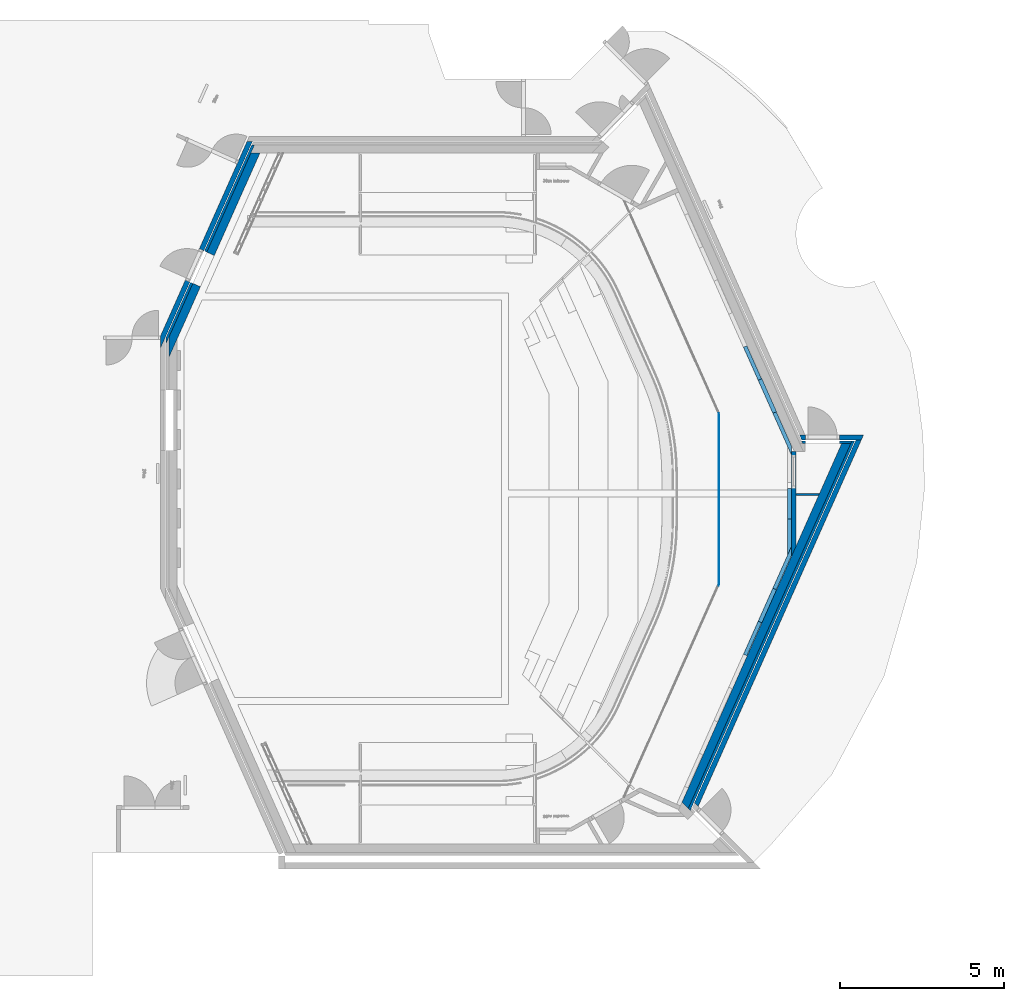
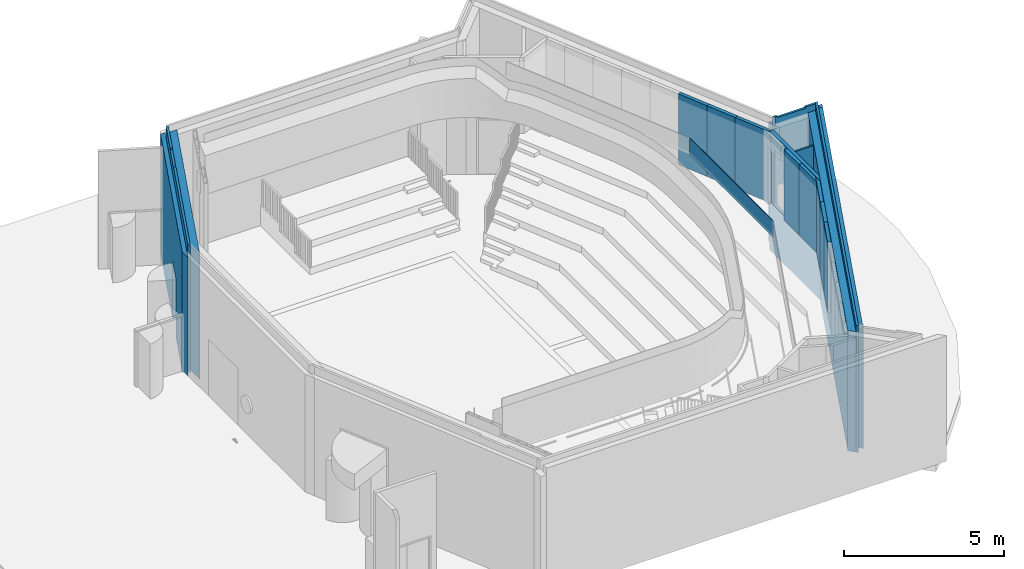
# One storey, part 9 of 19: 19 walls, 12 openings.
"""IFC2X3 building model written with IfcOpenShell, lengths in millimetres."""

from ifc_helpers import new_model, entity, si_unit, converted_unit, derived_unit, direction, frame, frame_2d, origin, origin_2d_with_axis, place, context, subcontext, project, spatial, polyline, rectangle, outline, extrude, clip, halfspace, material, layer, layer_set, layer_usage, type_object, element, save


model = new_model("IFC2X3")

# Units and contexts
model_context = context("Model", 3, precision=0.01, world=origin(), true_north=direction((6.123031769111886e-17, 1.0)))
body_context = subcontext(model_context, "Body", "Model", "MODEL_VIEW")
ifc_project = project(units=[si_unit("LENGTHUNIT", "METRE", prefix="MILLI"), si_unit("AREAUNIT", "SQUARE_METRE"), si_unit("VOLUMEUNIT", "CUBIC_METRE"), converted_unit("PLANEANGLEUNIT", "DEGREE", entity("IfcRatioMeasure", 0.017453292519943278), si_unit("PLANEANGLEUNIT", "RADIAN"), dimensions=[0, 0, 0, 0, 0, 0, 0]), si_unit("MASSUNIT", "GRAM", prefix="KILO"), derived_unit("MASSDENSITYUNIT", [(si_unit("MASSUNIT", "GRAM", prefix="KILO"), 1), (si_unit("LENGTHUNIT", "METRE"), -3)]), derived_unit("MOMENTOFINERTIAUNIT", [(si_unit("LENGTHUNIT", "METRE"), 4)]), si_unit("TIMEUNIT", "SECOND"), si_unit("FREQUENCYUNIT", "HERTZ"), si_unit("THERMODYNAMICTEMPERATUREUNIT", "DEGREE_CELSIUS"), derived_unit("THERMALTRANSMITTANCEUNIT", [(si_unit("MASSUNIT", "GRAM", prefix="KILO"), 1), (si_unit("THERMODYNAMICTEMPERATUREUNIT", "KELVIN"), -1), (si_unit("TIMEUNIT", "SECOND"), -3)]), derived_unit("VOLUMETRICFLOWRATEUNIT", [(si_unit("LENGTHUNIT", "METRE"), 3), (si_unit("TIMEUNIT", "SECOND"), -1)]), derived_unit("MASSFLOWRATEUNIT", [(si_unit("MASSUNIT", "GRAM", prefix="KILO"), 1), (si_unit("TIMEUNIT", "SECOND"), -1)]), derived_unit("ROTATIONALFREQUENCYUNIT", [(si_unit("TIMEUNIT", "SECOND"), -1)]), si_unit("ELECTRICCURRENTUNIT", "AMPERE"), si_unit("ELECTRICVOLTAGEUNIT", "VOLT"), si_unit("POWERUNIT", "WATT"), si_unit("FORCEUNIT", "NEWTON", prefix="KILO"), si_unit("ILLUMINANCEUNIT", "LUX"), si_unit("LUMINOUSFLUXUNIT", "LUMEN"), si_unit("LUMINOUSINTENSITYUNIT", "CANDELA"), derived_unit("USERDEFINED", [(si_unit("MASSUNIT", "GRAM", prefix="KILO"), -1), (si_unit("LENGTHUNIT", "METRE"), -2), (si_unit("TIMEUNIT", "SECOND"), 3), (si_unit("LUMINOUSFLUXUNIT", "LUMEN"), 1)]), derived_unit("SOUNDPOWERUNIT", [(si_unit("MASSUNIT", "GRAM", prefix="KILO"), 1), (si_unit("LENGTHUNIT", "METRE"), 2), (si_unit("TIMEUNIT", "SECOND"), -3)]), derived_unit("SOUNDPRESSUREUNIT", [(si_unit("MASSUNIT", "GRAM", prefix="KILO"), 1), (si_unit("LENGTHUNIT", "METRE"), -1), (si_unit("TIMEUNIT", "SECOND"), -2)]), derived_unit("LINEARVELOCITYUNIT", [(si_unit("LENGTHUNIT", "METRE"), 1), (si_unit("TIMEUNIT", "SECOND"), -1)]), si_unit("PRESSUREUNIT", "PASCAL"), derived_unit("USERDEFINED", [(si_unit("LENGTHUNIT", "METRE"), -2), (si_unit("MASSUNIT", "GRAM", prefix="KILO"), 1), (si_unit("TIMEUNIT", "SECOND"), -2)]), derived_unit("LINEARFORCEUNIT", [(si_unit("MASSUNIT", "GRAM", prefix="KILO"), 1), (si_unit("LENGTHUNIT", "METRE"), 1), (si_unit("TIMEUNIT", "SECOND"), -2), (si_unit("LENGTHUNIT", "METRE"), -1)]), derived_unit("PLANARFORCEUNIT", [(si_unit("MASSUNIT", "GRAM", prefix="KILO"), 1), (si_unit("LENGTHUNIT", "METRE"), 1), (si_unit("TIMEUNIT", "SECOND"), -2), (si_unit("LENGTHUNIT", "METRE"), -2)])], contexts=[model_context])

# Site, building, storey
site_placement = place(None, frame((-10000.0, -10000.0, 0.0)))
site = spatial("IfcSite", under=ifc_project, at=site_placement, Name="Default", CompositionType="ELEMENT")
building_placement = place(site_placement, origin())
building = spatial("IfcBuilding", under=site, at=building_placement, CompositionType="ELEMENT")
storey_placement = place(building_placement, frame((0.0, 0.0, 4200.0)))
storey = spatial("IfcBuildingStorey", under=building, at=storey_placement, Name="01 1e verdieping", CompositionType="ELEMENT", Elevation=4200.000000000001)

# Wall, opening
ifc_material_1 = material(Name="NLRS_beton ihwg")
ifc_layer_1 = layer(ifc_material_1, 250.00000000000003)
ifc_layer_set_1 = layer_set([ifc_layer_1], Name="Basic Wall:NLRS_21_WA_beton 250mm_ags")
ifc_layer_usage_1 = layer_usage(ifc_layer_set_1, "AXIS2", "NEGATIVE", 125.00000000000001)
wall_type_1 = type_object("IfcWallType", Name="Basic Wall:NLRS_21_WA_beton 250mm_ags", PredefinedType="STANDARD", material=ifc_layer_set_1)
wall_1_placement = place(storey_placement, frame((28183.279332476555, 49202.842080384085, -50.0), z_axis=(0.0, 0.0, 1.0), x_axis=(-0.4067366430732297, -0.9135454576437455, 0.0)))
wall_1 = element("IfcWallStandardCase", 1, at=wall_1_placement, inside=storey, type_object=wall_type_1, material=ifc_layer_usage_1, Name="Basic Wall:NLRS_21_WA_beton 250mm_ags", ObjectType="Basic Wall:NLRS_21_WA_beton 250mm_ags", context=body_context, shape_type="SweptSolid", body=[
    extrude(outline(polyline([(111.30717132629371, -125.0), (6254.8732549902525, -125.0), (6816.382448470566, 125.0), (6201.734114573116, 125.0), (0.0, 125.0), (111.30717132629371, -125.0)])), origin(), (0.0, 0.0, 1.0), 4799.999999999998),
])
opening_1_placement = place(wall_1_placement, origin())
element("IfcOpeningElement", 2, at=opening_1_placement, cuts=wall_1, Name="Basic Wall:NLRS_21_WA_beton 250mm_ags", ObjectType="Opening", context=body_context, shape_type="SweptSolid", body=[
    extrude(rectangle(XDim=2220.0, YDim=1040.0000000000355, at=frame_2d((0.0, 3.979039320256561e-12), x_axis=(1.0, 0.0))), frame((3931.7341145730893, -125.0, 1110.0), z_axis=(0.0, 1.0, 0.0), x_axis=(0.0, 0.0, -1.0)), (0.0, 0.0, 1.0), 249.99999999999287),
])

# Wall
ifc_layer_usage_2 = layer_usage(ifc_layer_set_1, "AXIS2", "NEGATIVE", 125.00000000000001)
wall_2_placement = place(storey_placement, frame((46159.346673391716, 40368.82110837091, -50.0), z_axis=(0.0, 0.0, 1.0), x_axis=(-0.40673664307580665, -0.9135454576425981, 0.0)))
element("IfcWallStandardCase", 3, at=wall_2_placement, inside=storey, type_object=wall_type_1, material=ifc_layer_usage_2, Name="Basic Wall:NLRS_21_WA_beton 250mm_ags", ObjectType="Basic Wall:NLRS_21_WA_beton 250mm_ags", context=body_context, shape_type="SweptSolid", body=[
    extrude(outline(polyline([(12057.846742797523, -125.0), (12153.812751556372, 125.0), (0.0, 125.0), (111.30717132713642, -125.0), (12057.846742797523, -125.0)])), origin(), (0.0, 0.0, 1.0), 4599.999999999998),
])

# Wall, opening
ifc_material_2 = material(Name="NLRS_kalkzandsteen")
ifc_layer_2 = layer(ifc_material_2, 150.0)
ifc_layer_set_2 = layer_set([ifc_layer_2], Name="Basic Wall:NLRS_22_WA_kalkzandsteen 150mm_ags")
ifc_layer_usage_3 = layer_usage(ifc_layer_set_2, "AXIS2", "NEGATIVE", 75.0)
wall_type_2 = type_object("IfcWallType", Name="Basic Wall:NLRS_22_WA_kalkzandsteen 150mm_ags", PredefinedType="STANDARD", material=ifc_layer_set_2)
wall_3_placement = place(storey_placement, frame((28001.66394773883, 49532.50524823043, -50.0), z_axis=(0.0, 0.0, 1.0), x_axis=(-0.40673664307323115, -0.9135454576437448, 0.0)))
wall_3 = element("IfcWallStandardCase", 4, at=wall_3_placement, inside=storey, type_object=wall_type_2, material=ifc_layer_usage_3, Name="Basic Wall:NLRS_22_WA_kalkzandsteen 150mm_ags", ObjectType="Basic Wall:NLRS_22_WA_kalkzandsteen 150mm_ags", context=body_context, shape_type="SweptSolid", body=[
    extrude(outline(polyline([(66.78430279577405, -75.0), (706.5938826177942, -75.0), (806.5938826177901, -75.0), (6535.3050530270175, -75.0), (6872.210569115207, 75.0), (6503.421568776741, 75.0), (0.0, 75.0), (66.78430279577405, -75.0)])), origin(), (0.0, 0.0, 1.0), 4549.999999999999),
])
opening_2_placement = place(wall_3_placement, origin())
element("IfcOpeningElement", 5, at=opening_2_placement, cuts=wall_3, Name="Basic Wall:NLRS_22_WA_kalkzandsteen 150mm_ags", ObjectType="Opening", context=body_context, shape_type="SweptSolid", body=[
    extrude(rectangle(XDim=2220.0, YDim=1039.9999999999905, at=frame_2d((0.0, -9.094947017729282e-13), x_axis=(1.0, 0.0))), frame((4159.026772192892, -75.0, 1110.0), z_axis=(0.0, 1.0, 0.0), x_axis=(0.0, 0.0, -1.0)), (0.0, 0.0, 1.0), 150.0000000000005),
])

# Wall, openings
ifc_layer_usage_4 = layer_usage(ifc_layer_set_2, "AXIS2", "NEGATIVE", 75.0)
wall_4_placement = place(storey_placement, frame((44718.49569253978, 40492.97902798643, -50.0)))
wall_4 = element("IfcWallStandardCase", 6, at=wall_4_placement, inside=storey, type_object=wall_type_2, material=ifc_layer_usage_4, Name="Basic Wall:NLRS_22_WA_kalkzandsteen 150mm_ags", ObjectType="Basic Wall:NLRS_22_WA_kalkzandsteen 150mm_ags", context=body_context, shape_type="SweptSolid", body=[
    extrude(outline(polyline([(66.78430279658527, -75.0), (1709.045469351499, -75.0), (1873.2323481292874, -75.0), (1939.9955952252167, 75.0), (164.1954417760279, 75.0), (0.0, 75.0), (66.78430279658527, -75.0)])), origin(), (0.0, 0.0, 1.0), 4549.999999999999),
])
opening_3_placement = place(wall_4_placement, origin())
element("IfcOpeningElement", 7, at=opening_3_placement, cuts=wall_4, Name="Basic Wall:NLRS_22_WA_kalkzandsteen 150mm_ags", ObjectType="Opening", context=body_context, shape_type="SweptSolid", body=[
    extrude(rectangle(XDim=2220.0, YDim=1019.9999999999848, at=frame_2d((0.0, 4.348521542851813e-12), x_axis=(1.0, 0.0))), frame((695.0779221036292, -75.0, 1110.0), z_axis=(0.0, 1.0, 0.0), x_axis=(0.0, 0.0, -1.0)), (0.0, 0.0, 1.0), 150.00000000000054),
])
opening_4_placement = place(wall_4_placement, origin())
element("IfcOpeningElement", 8, at=opening_4_placement, cuts=wall_4, Name="Basic Wall:NLRS_22_WA_kalkzandsteen 150mm_ags", ObjectType="Opening", context=body_context, shape_type="SweptSolid", body=[
    extrude(rectangle(XDim=2220.0, YDim=1019.9999999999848, at=frame_2d((-1.1368683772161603e-12, 4.348521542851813e-12), x_axis=(1.0, 0.0))), frame((695.0779221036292, -75.0, 5910.0), z_axis=(0.0, 1.0, 0.0), x_axis=(0.0, 0.0, -1.0)), (0.0, 0.0, 1.0), 150.00000000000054),
])
opening_5_placement = place(wall_4_placement, origin())
element("IfcOpeningElement", 9, at=opening_5_placement, cuts=wall_4, Name="Basic Wall:NLRS_22_WA_kalkzandsteen 150mm_ags", ObjectType="Opening", context=body_context, shape_type="SweptSolid", body=[
    extrude(rectangle(XDim=2170.0, YDim=1019.9999999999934, at=frame_2d((2.2737367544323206e-13, 0.0), x_axis=(1.0, 0.0))), frame((695.0779221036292, -227.4000000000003, 1135.0), z_axis=(0.0, 1.0, 0.0), x_axis=(0.0, 0.0, 1.0)), (0.0, 0.0, 1.0), 454.8000000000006),
])

# Wall
ifc_layer_usage_5 = layer_usage(ifc_layer_set_2, "AXIS2", "NEGATIVE", 75.0)
wall_5_placement = place(storey_placement, frame((46523.20855796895, 40448.476249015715, -50.0), z_axis=(0.0, 0.0, 1.0), x_axis=(-0.40662961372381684, -0.9135931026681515, 0.0)))
element("IfcWallStandardCase", 10, at=wall_5_placement, inside=storey, type_object=wall_type_2, material=ifc_layer_usage_5, Name="Basic Wall:NLRS_22_WA_kalkzandsteen 150mm_ags", ObjectType="Basic Wall:NLRS_22_WA_kalkzandsteen 150mm_ags", context=body_context, shape_type="SweptSolid", body=[
    extrude(outline(polyline([(12145.717160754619, -75.0), (12203.316929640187, 75.0), (0.0, 75.0), (66.76324709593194, -75.0), (12145.717160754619, -75.0)])), origin(), (0.0, 0.0, 1.0), 4549.999999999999),
])

# Wall, openings
ifc_material_3 = material(Name="NLRS_isolatie")
ifc_layer_3 = layer(ifc_material_3, 80.0)
ifc_layer_set_3 = layer_set([ifc_layer_3], Name="Basic Wall:NLRS_21_WA_isolatie 80mm_ags")
ifc_layer_usage_6 = layer_usage(ifc_layer_set_3, "AXIS2", "NEGATIVE", 40.0)
wall_type_3 = type_object("IfcWallType", Name="Basic Wall:NLRS_21_WA_isolatie 80mm_ags", PredefinedType="STANDARD", material=ifc_layer_set_3)
wall_6_placement = place(storey_placement, frame((25408.45818138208, 43376.159634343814, -50.0), z_axis=(0.0, 0.0, 1.0), x_axis=(0.4067366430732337, 0.9135454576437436, 0.0)))
wall_6 = element("IfcWallStandardCase", 11, at=wall_6_placement, inside=storey, type_object=wall_type_3, material=ifc_layer_usage_6, Name="Basic Wall:NLRS_21_WA_isolatie 80mm_ags", ObjectType="Basic Wall:NLRS_21_WA_isolatie 80mm_ags", context=body_context, shape_type="Clipping", body=[
    clip(extrude(outline(polyline([(0.0, -40.0), (196.68746684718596, -40.0), (6613.912620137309, -40.0), (6578.294325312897, 40.0), (179.68294191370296, 40.0), (0.0, -40.0)])), origin(), (0.0, 0.0, 1.0), 4850.0), halfspace(frame((0.0, 0.0, -50.0)), True)),
])
opening_6_placement = place(wall_6_placement, origin())
element("IfcOpeningElement", 12, at=opening_6_placement, cuts=wall_6, Name="Basic Wall:NLRS_21_WA_isolatie 80mm_ags", ObjectType="Opening", context=body_context, shape_type="SweptSolid", body=[
    extrude(rectangle(XDim=2220.0, YDim=1040.0000000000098, at=frame_2d((0.0, -9.094947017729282e-13), x_axis=(1.0, 0.0))), frame((2519.8266072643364, -40.0, 1110.0), z_axis=(0.0, 1.0, 0.0), x_axis=(0.0, 0.0, -1.0)), (0.0, 0.0, 1.0), 80.00000000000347),
])
opening_7_placement = place(wall_6_placement, origin())
element("IfcOpeningElement", 13, at=opening_7_placement, cuts=wall_6, Name="Basic Wall:NLRS_21_WA_isolatie 80mm_ags", ObjectType="Opening", context=body_context, shape_type="SweptSolid", body=[
    extrude(rectangle(XDim=2220.0, YDim=1030.0000000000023, at=frame_2d((-1.1368683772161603e-12, 9.094947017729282e-13), x_axis=(1.0, 0.0))), frame((4883.560721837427, -40.0, 5910.0), z_axis=(0.0, 1.0, 0.0), x_axis=(0.0, 0.0, -1.0)), (0.0, 0.0, 1.0), 79.99999999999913),
])

# Wall
ifc_layer_usage_7 = layer_usage(ifc_layer_set_3, "AXIS2", "NEGATIVE", 40.0)
wall_7_placement = place(storey_placement, frame((41354.19014924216, 29170.59495039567, -50.0), z_axis=(0.0, 0.0, 1.0), x_axis=(0.4067366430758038, 0.9135454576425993, 0.0)))
element("IfcWallStandardCase", 14, at=wall_7_placement, inside=storey, type_object=wall_type_3, material=ifc_layer_usage_7, Name="Basic Wall:NLRS_21_WA_isolatie 80mm_ags", ObjectType="Basic Wall:NLRS_21_WA_isolatie 80mm_ags", context=body_context, shape_type="Clipping", body=[
    clip(extrude(outline(polyline([(12307.711071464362, -40.0), (12272.092776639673, 40.0), (12184.521874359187, 40.0), (30.709122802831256, 40.0), (0.0, -40.0), (85.69159949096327, -40.0), (12307.711071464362, -40.0)])), origin(), (0.0, 0.0, 1.0), 4850.0), halfspace(frame((0.0, 0.0, -50.0)), True)),
])

# Wall, openings
ifc_layer_usage_8 = layer_usage(ifc_layer_set_3, "AXIS2", "NEGATIVE", 40.0)
wall_8_placement = place(storey_placement, frame((44772.29184347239, 40357.97902798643, -50.0)))
wall_8 = element("IfcWallStandardCase", 15, at=wall_8_placement, inside=storey, type_object=wall_type_3, material=ifc_layer_usage_8, Name="Basic Wall:NLRS_21_WA_isolatie 80mm_ags", ObjectType="Basic Wall:NLRS_21_WA_isolatie 80mm_ags", context=body_context, shape_type="Clipping", body=[
    clip(extrude(outline(polyline([(35.61829482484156, -40.0), (1501.2480121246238, -40.0), (1536.8663069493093, 40.0), (0.0, 40.0), (35.61829482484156, -40.0)])), origin(), (0.0, 0.0, 1.0), 4850.0), halfspace(frame((0.0, 0.0, -50.0)), True)),
])
opening_8_placement = place(wall_8_placement, origin())
element("IfcOpeningElement", 16, at=opening_8_placement, cuts=wall_8, Name="Basic Wall:NLRS_21_WA_isolatie 80mm_ags", ObjectType="Opening", context=body_context, shape_type="SweptSolid", body=[
    extrude(rectangle(XDim=2220.0, YDim=1019.9999999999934, at=origin_2d_with_axis()), frame((641.2817711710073, -40.0, 1110.0), z_axis=(0.0, 1.0, 0.0), x_axis=(0.0, 0.0, -1.0)), (0.0, 0.0, 1.0), 79.99999999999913),
])
opening_9_placement = place(wall_8_placement, origin())
element("IfcOpeningElement", 17, at=opening_9_placement, cuts=wall_8, Name="Basic Wall:NLRS_21_WA_isolatie 80mm_ags", ObjectType="Opening", context=body_context, shape_type="SweptSolid", body=[
    extrude(rectangle(XDim=2220.0, YDim=1019.9999999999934, at=frame_2d((-1.1368683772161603e-12, 0.0), x_axis=(1.0, 0.0))), frame((641.2817711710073, -40.0, 5910.0), z_axis=(0.0, 1.0, 0.0), x_axis=(0.0, 0.0, -1.0)), (0.0, 0.0, 1.0), 79.99999999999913),
])

# Wall, opening
ifc_material_4 = material(Name="NLRS_MDF")
ifc_layer_4 = layer(ifc_material_4, 12.5)
ifc_material_5 = material(Name="NLRS_gipsplaat")
ifc_layer_5 = layer(ifc_material_5, 12.5)
ifc_material_6 = material(Name="NLRS_aluminium C-profielen met isolatie")
ifc_layer_6 = layer(ifc_material_6, 100.0)
ifc_layer_set_4 = layer_set([ifc_layer_4, ifc_layer_5, ifc_layer_6], Name="Basic Wall:NLRS_22_WA_ms-wand mdf gips iso 125mm 25-100_ags")
ifc_layer_usage_9 = layer_usage(ifc_layer_set_4, "AXIS2", "POSITIVE", -62.50000000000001)
wall_type_4 = type_object("IfcWallType", Name="Basic Wall:NLRS_22_WA_ms-wand mdf gips iso 125mm 25-100_ags", PredefinedType="STANDARD", material=ifc_layer_set_4)
wall_9_placement = place(storey_placement, frame((44412.49999999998, 39127.80207005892, 1845.0), z_axis=(0.0, 0.0, 1.0), x_axis=(0.0, -1.0, 0.0)))
wall_9 = element("IfcWallStandardCase", 18, at=wall_9_placement, inside=storey, type_object=wall_type_4, material=ifc_layer_usage_9, Name="Basic Wall:NLRS_22_WA_ms-wand mdf gips iso 125mm 25-100_ags", ObjectType="Basic Wall:NLRS_22_WA_ms-wand mdf gips iso 125mm 25-100_ags", context=body_context, shape_type="SweptSolid", body=[
    extrude(rectangle(XDim=124.99999999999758, YDim=928.3687509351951, at=frame_2d((644.007417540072, 4.330757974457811e-12), x_axis=(0.0, -1.0))), origin(), (0.0, 0.0, 1.0), 2704.999999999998),
])
opening_10_placement = place(wall_9_placement, origin())
element("IfcOpeningElement", 19, at=opening_10_placement, cuts=wall_9, Name="Basic Wall:NLRS_22_WA_ms-wand mdf gips iso 125mm 25-100_ags", ObjectType="Opening", context=body_context, shape_type="SweptSolid", body=[
    extrude(rectangle(XDim=2170.0000000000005, YDim=1019.9999999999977, at=frame_2d((-2.1600499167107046e-12, 0.0), x_axis=(0.0, 1.0))), frame((-330.17695792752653, -214.89999999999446, 1085.0), z_axis=(0.0, 1.0, 0.0), x_axis=(-1.0, 0.0, 0.0)), (0.0, 0.0, 1.0), 429.79999999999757),
])

# Walls
ifc_layer_usage_10 = layer_usage(ifc_layer_set_4, "AXIS2", "POSITIVE", -62.50000000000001)
wall_10_placement = place(storey_placement, frame((43512.27597633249, 42263.02311706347, 1845.0), z_axis=(0.0, 0.0, 1.0), x_axis=(0.40673664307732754, -0.913545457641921, 0.0)))
element("IfcWallStandardCase", 20, at=wall_10_placement, inside=storey, type_object=wall_type_4, material=ifc_layer_usage_10, Name="Basic Wall:NLRS_22_WA_ms-wand mdf gips iso 125mm 25-100_ags", ObjectType="Basic Wall:NLRS_22_WA_ms-wand mdf gips iso 125mm 25-100_ags", context=body_context, shape_type="SweptSolid", body=[
    extrude(rectangle(XDim=1099.9999999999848, YDim=124.99999999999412, at=frame_2d((549.9999999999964, -1.822542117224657e-12), x_axis=(-1.0, 0.0))), origin(), (0.0, 0.0, 1.0), 2704.999999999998),
])
ifc_layer_usage_11 = layer_usage(ifc_layer_set_4, "AXIS2", "NEGATIVE", 62.50000000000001)
wall_11_placement = place(storey_placement, frame((43512.275976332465, 34884.38923004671, 1845.0), z_axis=(0.0, 0.0, 1.0), x_axis=(0.4067366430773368, 0.9135454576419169, 0.0)))
element("IfcWallStandardCase", 21, at=wall_11_placement, inside=storey, type_object=wall_type_4, material=ifc_layer_usage_11, Name="Basic Wall:NLRS_22_WA_ms-wand mdf gips iso 125mm 25-100_ags", ObjectType="Basic Wall:NLRS_22_WA_ms-wand mdf gips iso 125mm 25-100_ags", context=body_context, shape_type="SweptSolid", body=[
    extrude(rectangle(XDim=1099.9999999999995, YDim=124.99999999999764, at=frame_2d((549.9999999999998, -5.400124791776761e-13), x_axis=(-1.0, 0.0))), origin(), (0.0, 0.0, 1.0), 2704.999999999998),
])

# Wall, opening
ifc_layer_7 = layer(ifc_material_5, 12.5)
ifc_layer_8 = layer(ifc_material_5, 12.5)
ifc_layer_9 = layer(ifc_material_6, 75.0)
ifc_layer_10 = layer(ifc_material_5, 12.5)
ifc_layer_11 = layer(ifc_material_5, 12.5)
ifc_layer_set_5 = layer_set([ifc_layer_7, ifc_layer_8, ifc_layer_9, ifc_layer_10, ifc_layer_11], Name="Basic Wall:NLRS_22_WA_ms-wand gips iso gips 125mm 25-75-25_ags")
ifc_layer_usage_12 = layer_usage(ifc_layer_set_5, "AXIS2", "NEGATIVE", 62.50000000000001)
wall_type_5 = type_object("IfcWallType", Name="Basic Wall:NLRS_22_WA_ms-wand gips iso gips 125mm 25-75-25_ags", PredefinedType="STANDARD", material=ifc_layer_set_5)
wall_12_placement = place(storey_placement, frame((44537.49999999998, 40067.97902798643, 0.0), z_axis=(0.0, 0.0, 1.0), x_axis=(0.0, -1.0, 0.0)))
wall_12 = element("IfcWallStandardCase", 22, at=wall_12_placement, inside=storey, type_object=wall_type_5, material=ifc_layer_usage_12, Name="Basic Wall:NLRS_22_WA_ms-wand gips iso gips 125mm 25-75-25_ags", ObjectType="Basic Wall:NLRS_22_WA_ms-wand gips iso gips 125mm 25-75-25_ags", context=body_context, shape_type="SweptSolid", body=[
    extrude(outline(polyline([(3174.9383211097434, -62.49999999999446), (2894.1837243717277, 62.50000000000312), (0.0, 62.50000000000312), (0.0, -62.49999999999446), (3174.9383211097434, -62.49999999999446)])), origin(), (0.0, 0.0, 1.0), 4549.999999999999),
])
opening_11_placement = place(wall_12_placement, origin())
element("IfcOpeningElement", 23, at=opening_11_placement, cuts=wall_12, Name="Basic Wall:NLRS_22_WA_ms-wand gips iso gips 125mm 25-75-25_ags", ObjectType="Opening", context=body_context, shape_type="SweptSolid", body=[
    extrude(rectangle(XDim=2170.0000000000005, YDim=1019.9999999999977, at=frame_2d((-2.1600499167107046e-12, 0.0), x_axis=(0.0, 1.0))), frame((610.0, -214.89999999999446, 2930.0), z_axis=(0.0, 1.0, 0.0), x_axis=(-1.0, 0.0, 0.0)), (0.0, 0.0, 1.0), 429.79999999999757),
])

# Wall
ifc_material_7 = material(Name="NLRS_multiplex")
ifc_layer_12 = layer(ifc_material_7, 18.0)
ifc_material_8 = material(Name="NLRS_houten regelwerk")
ifc_layer_13 = layer(ifc_material_8, 50.0)
ifc_layer_set_6 = layer_set([ifc_layer_12, ifc_layer_13], Name="Basic Wall:NLRS_41_WA_multiplex op regelwerk 65mm 15-50mm")
ifc_layer_usage_13 = layer_usage(ifc_layer_set_6, "AXIS2", "NEGATIVE", 34.0)
wall_type_6 = type_object("IfcWallType", Name="Basic Wall:NLRS_41_WA_multiplex op regelwerk 65mm 15-50mm", PredefinedType="STANDARD", material=ifc_layer_set_6)
wall_13_placement = place(storey_placement, frame((44600.0, 38766.0, 0.0)))
element("IfcWallStandardCase", 24, at=wall_13_placement, inside=storey, type_object=wall_type_6, material=ifc_layer_usage_13, Name="Basic Wall:NLRS_41_WA_multiplex op regelwerk 65mm 15-50mm", ObjectType="Basic Wall:NLRS_41_WA_multiplex op regelwerk 65mm 15-50mm", context=body_context, shape_type="SweptSolid", body=[
    extrude(outline(polyline([(693.7574284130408, -34.0), (724.0329790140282, 34.0), (0.0, 34.0), (0.0, -34.0), (693.7574284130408, -34.0)])), origin(), (0.0, 0.0, 1.0), 4499.999999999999),
])

# Wall, opening
ifc_material_9 = material(Name="NLRS_hout")
ifc_layer_14 = layer(ifc_material_9, 39.0)
ifc_material_10 = material(Name="NLRS_vilt")
ifc_layer_15 = layer(ifc_material_10, 1.0)
ifc_layer_16 = layer(ifc_material_6, 75.0)
ifc_layer_set_7 = layer_set([ifc_layer_14, ifc_layer_15, ifc_layer_16], Name="Basic Wall:NLRS_22_WA_akoestische voorzetwand 115mm 39-1-75_ags")
ifc_layer_usage_14 = layer_usage(ifc_layer_set_7, "AXIS2", "POSITIVE", -57.50000000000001)
wall_type_7 = type_object("IfcWallType", Name="Basic Wall:NLRS_22_WA_akoestische voorzetwand 115mm 39-1-75_ags", PredefinedType="STANDARD", material=ifc_layer_set_7)
wall_14_placement = place(storey_placement, frame((44407.49999999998, 38019.47382601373, 1845.0), z_axis=(0.0, 0.0, 1.0), x_axis=(0.0, -1.0, 0.0)))
wall_14 = element("IfcWallStandardCase", 25, at=wall_14_placement, inside=storey, type_object=wall_type_7, material=ifc_layer_usage_14, Name="Basic Wall:NLRS_22_WA_akoestische voorzetwand 115mm 39-1-75_ags", ObjectType="Basic Wall:NLRS_22_WA_akoestische voorzetwand 115mm 39-1-75_ags", context=body_context, shape_type="SweptSolid", body=[
    extrude(outline(polyline([(1099.8635489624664, -57.499999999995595), (841.569319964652, 57.500000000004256), (0.0, 57.500000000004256), (0.0, -57.499999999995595), (1099.8635489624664, -57.499999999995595)])), origin(), (0.0, 0.0, 1.0), 2704.999999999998),
])
opening_12_placement = place(wall_14_placement, origin())
element("IfcOpeningElement", 26, at=opening_12_placement, cuts=wall_14, Name="Basic Wall:NLRS_22_WA_akoestische voorzetwand 115mm 39-1-75_ags", ObjectType="Opening", context=body_context, shape_type="SweptSolid", body=[
    extrude(rectangle(XDim=2170.0000000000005, YDim=1019.9999999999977, at=frame_2d((-2.1600499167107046e-12, 0.0), x_axis=(0.0, 1.0))), frame((-1438.5052019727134, -209.8999999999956, 1085.0), z_axis=(0.0, 1.0, 0.0), x_axis=(-1.0, 0.0, 0.0)), (0.0, 0.0, 1.0), 419.79999999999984),
])

# Walls
ifc_layer_usage_15 = layer_usage(ifc_layer_set_7, "AXIS2", "POSITIVE", -57.50000000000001)
wall_15_placement = place(storey_placement, frame((43955.11855642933, 41256.08943044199, 1845.0), z_axis=(0.0, 0.0, 1.0), x_axis=(0.40673664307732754, -0.913545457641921, 0.0)))
element("IfcWallStandardCase", 27, at=wall_15_placement, inside=storey, type_object=wall_type_7, material=ifc_layer_usage_15, Name="Basic Wall:NLRS_22_WA_akoestische voorzetwand 115mm 39-1-75_ags", ObjectType="Basic Wall:NLRS_22_WA_akoestische voorzetwand 115mm 39-1-75_ags", context=body_context, shape_type="SweptSolid", body=[
    extrude(outline(polyline([(1382.7382335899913, -57.49999999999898), (1124.4440045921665, 57.500000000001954), (0.0, 57.50000000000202), (0.0, -57.49999999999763), (1100.0, -57.499999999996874), (1382.7382335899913, -57.49999999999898)])), origin(), (0.0, 0.0, 1.0), 2704.999999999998),
])
ifc_layer_usage_16 = layer_usage(ifc_layer_set_7, "AXIS2", "POSITIVE", -57.50000000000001)
wall_16_placement = place(storey_placement, frame((43060.29794165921, 43265.889437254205, 1845.0), z_axis=(0.0, 0.0, 1.0), x_axis=(0.40673664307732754, -0.913545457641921, 0.0)))
element("IfcWallStandardCase", 28, at=wall_16_placement, inside=storey, type_object=wall_type_7, material=ifc_layer_usage_16, Name="Basic Wall:NLRS_22_WA_akoestische voorzetwand 115mm 39-1-75_ags", ObjectType="Basic Wall:NLRS_22_WA_akoestische voorzetwand 115mm 39-1-75_ags", context=body_context, shape_type="SweptSolid", body=[
    extrude(rectangle(XDim=1099.9999999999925, YDim=115.00000000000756, at=frame_2d((550.000000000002, 3.694822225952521e-13), x_axis=(-1.0, 0.0))), origin(), (0.0, 0.0, 1.0), 2704.999999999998),
])
ifc_layer_usage_17 = layer_usage(ifc_layer_set_7, "AXIS2", "NEGATIVE", 57.50000000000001)
wall_17_placement = place(storey_placement, frame((43060.297941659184, 33881.52290985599, 1845.0), z_axis=(0.0, 0.0, 1.0), x_axis=(0.4067366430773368, 0.9135454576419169, 0.0)))
element("IfcWallStandardCase", 29, at=wall_17_placement, inside=storey, type_object=wall_type_7, material=ifc_layer_usage_17, Name="Basic Wall:NLRS_22_WA_akoestische voorzetwand 115mm 39-1-75_ags", ObjectType="Basic Wall:NLRS_22_WA_akoestische voorzetwand 115mm 39-1-75_ags", context=body_context, shape_type="SweptSolid", body=[
    extrude(rectangle(XDim=1099.9999999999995, YDim=114.99999999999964, at=frame_2d((550.0, 4.330757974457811e-12), x_axis=(-1.0, 0.0))), origin(), (0.0, 0.0, 1.0), 2704.999999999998),
])
ifc_layer_usage_18 = layer_usage(ifc_layer_set_7, "AXIS2", "NEGATIVE", 57.50000000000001)
wall_18_placement = place(storey_placement, frame((43955.11855642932, 35891.3229166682, 1845.0), z_axis=(0.0, 0.0, 1.0), x_axis=(0.4067366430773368, 0.9135454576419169, 0.0)))
element("IfcWallStandardCase", 30, at=wall_18_placement, inside=storey, type_object=wall_type_7, material=ifc_layer_usage_18, Name="Basic Wall:NLRS_22_WA_akoestische voorzetwand 115mm 39-1-75_ags", ObjectType="Basic Wall:NLRS_22_WA_akoestische voorzetwand 115mm 39-1-75_ags", context=body_context, shape_type="SweptSolid", body=[
    extrude(outline(polyline([(1124.4440045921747, -57.49999999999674), (1382.7382335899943, 57.500000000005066), (1100.0, 57.50000000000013), (0.0, 57.49999999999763), (0.0, -57.49999999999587), (1124.4440045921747, -57.49999999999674)])), origin(), (0.0, 0.0, 1.0), 2704.999999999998),
])
ifc_material_11 = material(Name="36_APX_multiplex")
ifc_layer_17 = layer(ifc_material_11, 25.0)
ifc_layer_set_8 = layer_set([ifc_layer_17], Name="Basic Wall:NLRS_42_WA_multiplex 25mm_ags")
ifc_layer_usage_19 = layer_usage(ifc_layer_set_8, "AXIS2", "NEGATIVE", 12.5)
wall_type_8 = type_object("IfcWallType", Name="Basic Wall:NLRS_42_WA_multiplex 25mm_ags", PredefinedType="STANDARD", material=ifc_layer_set_8)
wall_19_placement = place(storey_placement, frame((42262.49921211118, 41232.0051281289, 3725.0), z_axis=(0.0, 0.0, 1.0), x_axis=(0.0, -1.0, 0.0)))
element("IfcWallStandardCase", 31, at=wall_19_placement, inside=storey, type_object=wall_type_8, material=ifc_layer_usage_19, Name="Basic Wall:NLRS_42_WA_multiplex 25mm_ags", ObjectType="Basic Wall:NLRS_42_WA_multiplex 25mm_ags", context=body_context, shape_type="SweptSolid", body=[
    extrude(outline(polyline([(5248.473153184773, -12.50000000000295), (5192.322233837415, 12.499999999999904), (56.15091934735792, 12.49999999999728), (0.0, -12.500000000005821), (5187.008319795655, -12.500000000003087), (5248.473153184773, -12.50000000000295)])), origin(), (0.0, 0.0, 1.0), 619.9999999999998),
])

save(model, "model.ifc")
